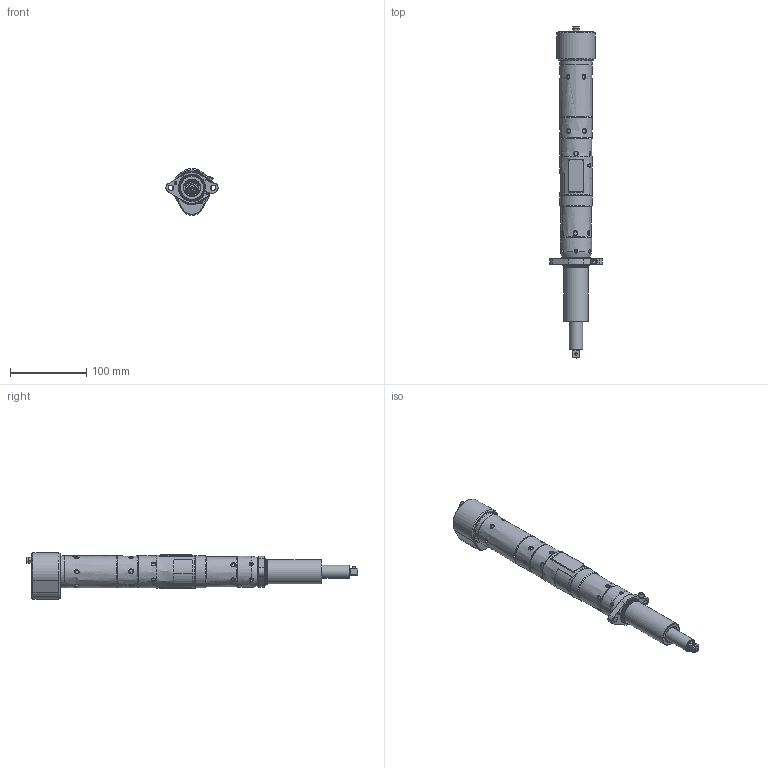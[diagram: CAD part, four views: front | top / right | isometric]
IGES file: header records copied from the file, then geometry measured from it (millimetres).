
Global section: file name: T:\siji\siji2\QA6 REMOTE SHUTOFF\45498466\45498466.igs; native system: Unigraphics Version X V2.0; preprocessor: Unigraphics NX IGES V2.0; date: 20070515.124545; units: inch
Bounding box: 68.26 x 434.58 x 60.94 mm (x, y, z)
Surface area: 84251.9 mm2 (no closed solid volume)
Topology: 0 solids, 0 shells, 557 faces, 10309 edges, 10201 vertices
Faces by surface type: revolution 352, extrusion 201, bspline 4
